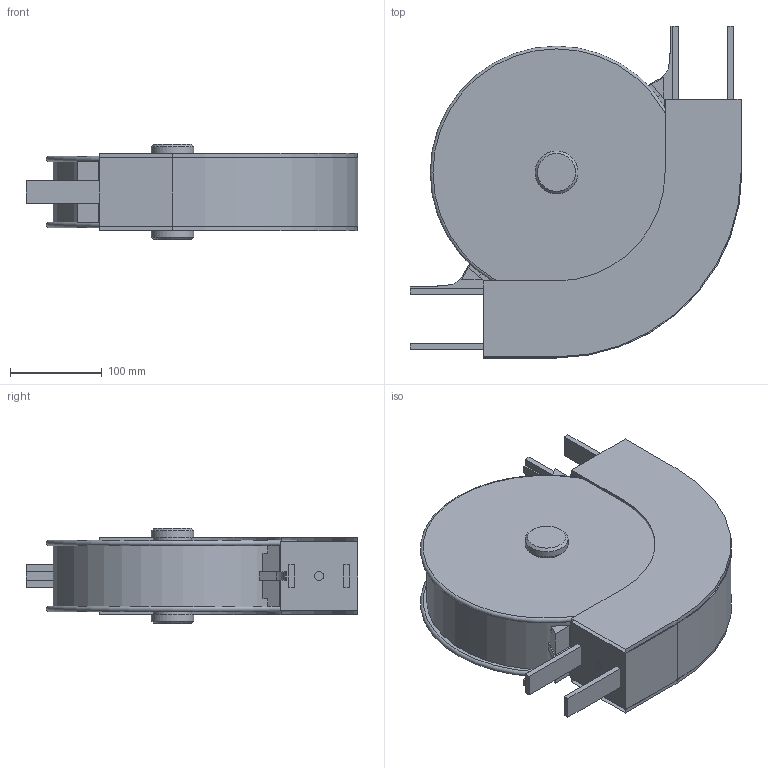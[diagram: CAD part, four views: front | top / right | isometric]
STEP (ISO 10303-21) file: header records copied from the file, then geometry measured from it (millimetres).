
FILE_DESCRIPTION(/* description */ ('Bogenrad 90°'),/* implementation_level */ '2;1');
FILE_NAME(/* name */ 'T:\vdz0\Step Daten Website\modulflex FM-System\Bogenräder\FMBH 90R160 A_43830.stp',/* time_stamp */ '2024-09-03T10:17:51+02:00',/* author */ ('lzb0'),/* organization */ ('modular automation GmbH'),/* preprocessor_version */ 'ST-DEVELOPER v18.1',/* originating_system */ 'Autodesk Inventor 2021',/* authorisation */ '');
FILE_SCHEMA (('AUTOMOTIVE_DESIGN { 1 0 10303 214 3 1 1 }'));
Length unit declared in the file: millimetre
Products named in the file (1): FMBH 90R160 A
Bounding box: 362.5 x 362.5 x 104 mm (x, y, z)
Volume: 7074593 mm3; surface area: 543559.3 mm2
Topology: 8 solids, 12 shells, 123 faces, 289 edges, 192 vertices
Faces by surface type: plane 104, cylinder 15, cone 2, torus 2
Full cylindrical faces by diameter (mm): 10 x2, 42 x2, 47 x2, 262 x1
Entity records: 3581 total; most frequent: CARTESIAN_POINT 612, DIRECTION 577, ORIENTED_EDGE 558, EDGE_CURVE 289, LINE 251, VECTOR 251, VERTEX_POINT 192, AXIS2_PLACEMENT_3D 163
